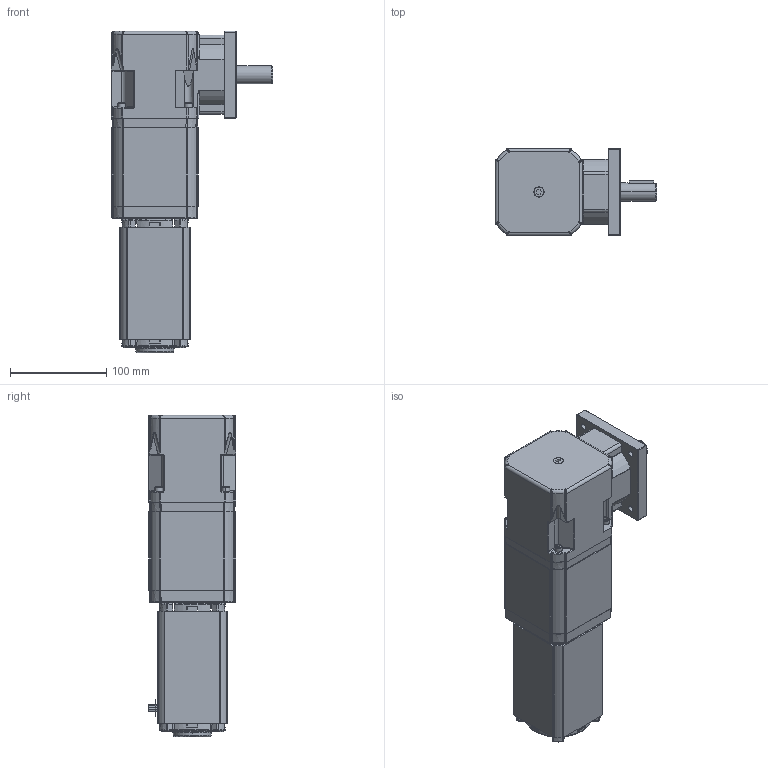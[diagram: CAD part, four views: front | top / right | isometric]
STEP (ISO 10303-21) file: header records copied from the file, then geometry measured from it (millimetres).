
FILE_DESCRIPTION (( 'STEP AP214' ), '1' );
FILE_NAME ('BL6540-RP7300_2S.STEP', '2013-01-28T21:14:31', ( '' ), ( '' ), 'SwSTEP 2.0', 'SolidWorks 2013', '' );
FILE_SCHEMA (( 'AUTOMOTIVE_DESIGN' ));
Length unit declared in the file: inch
Products named in the file (1): BL6540-RP7300_2S
Bounding box: 167.94 x 91.21 x 333.86 mm (x, y, z)
Surface area: 196590.3 mm2 (no closed solid volume)
Topology: 0 solids, 67 shells, 1274 faces, 4350 edges, 3024 vertices
Faces by surface type: cylinder 450, plane 329, cone 179, torus 161, bspline 122, sphere 33
Entity records: 70450 total; most frequent: CARTESIAN_POINT 17994, DIRECTION 7636, ORIENTED_EDGE 6742, EDGE_CURVE 4297, VERTEX_POINT 3024, AXIS2_PLACEMENT_3D 2932, CIRCLE 1779, VECTOR 1772
